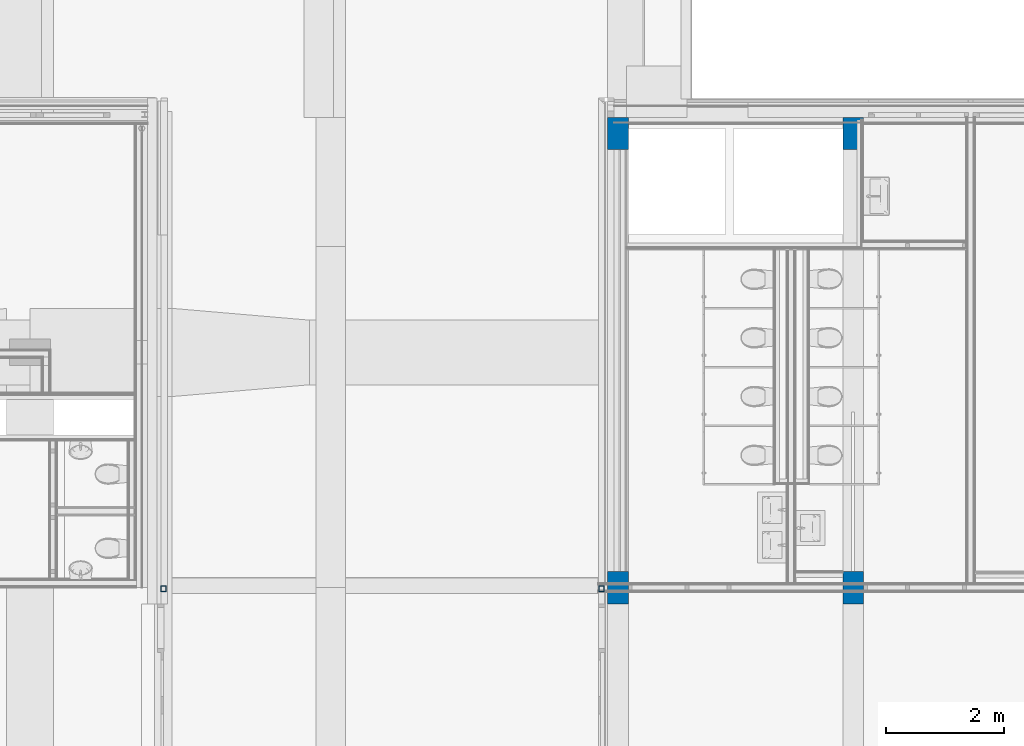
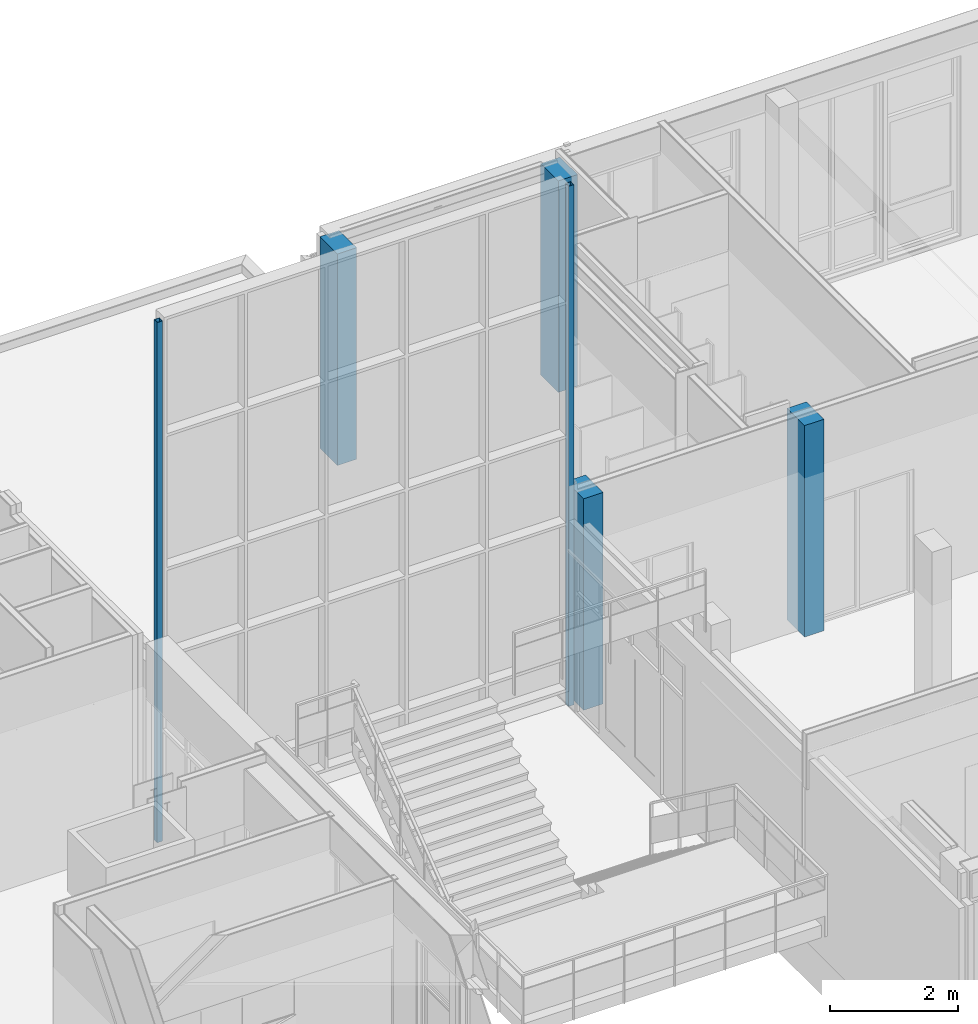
# One storey, part 10 of 94: 6 columns.
"""IFC2X3 building model written with IfcOpenShell, lengths in millimetres."""

import ifcopenshell
import ifcopenshell.guid

model = None  # the IFC model being written
_history = None  # IfcOwnerHistory: only IFC2X3 demands one
_inside = {}  # id of a spatial element -> (the spatial element, [elements in it])
_under = {}  # id of a project, library or spatial element -> (it, [spatial elements below it])
_declared = {}  # id of a project -> (the project, [libraries it declares])
_typed = {}  # id of a type object -> (the type object, [elements of that type])
_made_of = {}  # id of a material, layer set ... -> (it, [elements and type objects made of it])


def new_model(schema):
    """Start an empty IFC model of exactly this schema.

    Asked for "IFC4X3", IfcOpenShell would pick the latest addendum, in which some entities
    have other attributes; the version numbers below select the first issue.
    IFC2X3 requires an IfcOwnerHistory on every rooted entity: one is made here for all.
    """
    global model, _history
    if schema == "IFC4X3":
        model = ifcopenshell.file(schema_version=(4, 3, 0, 0))
    else:
        model = ifcopenshell.file(schema=schema)
    _inside.clear()
    _under.clear()
    _declared.clear()
    _typed.clear()
    _made_of.clear()
    _history = None
    if model.schema == "IFC2X3":
        org = make("IfcOrganization", Name="unknown")
        user = make(
            "IfcPersonAndOrganization",
            ThePerson=make("IfcPerson", FamilyName="unknown"),
            TheOrganization=org,
        )
        app = make(
            "IfcApplication",
            ApplicationDeveloper=org,
            Version="unknown",
            ApplicationFullName="unknown",
            ApplicationIdentifier="unknown",
        )
        _history = make(
            "IfcOwnerHistory",
            OwningUser=user,
            OwningApplication=app,
            ChangeAction="ADDED",
            CreationDate=0,
        )
    return model


def make(cls, **values):
    """One entity of the class cls with the attributes given. An attribute that is None is left unset."""
    return model.create_entity(
        cls, **{name: value for name, value in values.items() if value is not None}
    )


def entity(cls, *values):
    """Any entity or typed value of the class cls, its attributes in the order of the schema. None: left unset."""
    e = model.create_entity(cls)
    for i, value in enumerate(values):
        if value is not None:
            e[i] = value
    return e


def rooted(cls, **values):
    """An entity with a GlobalId (a new one), such as an element, a storey or a relation."""
    return make(cls, GlobalId=ifcopenshell.guid.new(), OwnerHistory=_history, **values)


def si_unit(unit_type, name, prefix=None):
    """IfcSIUnit, for example si_unit("LENGTHUNIT", "METRE", prefix="MILLI")."""
    return make("IfcSIUnit", UnitType=unit_type, Prefix=prefix, Name=name)


def converted_unit(unit_type, name, factor, base, dimensions=None, offset=None):
    """IfcConversionBasedUnit, such as the inch: factor (a typed value) times the base unit."""
    return make(
        "IfcConversionBasedUnit"
        if offset is None
        else "IfcConversionBasedUnitWithOffset",
        ConversionOffset=offset,
        Dimensions=None
        if dimensions is None
        else entity("IfcDimensionalExponents", *dimensions),
        UnitType=unit_type,
        Name=name,
        ConversionFactor=make(
            "IfcMeasureWithUnit", ValueComponent=factor, UnitComponent=base
        ),
    )


def derived_unit(unit_type, elements):
    """IfcDerivedUnit: a product of units, each with its exponent."""
    return make(
        "IfcDerivedUnit",
        Elements=[
            make("IfcDerivedUnitElement", Unit=unit, Exponent=power)
            for unit, power in elements
        ],
        UnitType=unit_type,
    )


def money_unit(currency):
    """IfcMonetaryUnit."""
    return make("IfcMonetaryUnit", Currency=currency)


def assignment(units):
    """IfcUnitAssignment: the units of a project."""
    return None if units is None else make("IfcUnitAssignment", Units=units)


def point(xyz):
    """IfcCartesianPoint."""
    return None if xyz is None else make("IfcCartesianPoint", Coordinates=xyz)


def direction(xyz):
    """IfcDirection."""
    return None if xyz is None else make("IfcDirection", DirectionRatios=xyz)


def frame(location, z_axis=None, x_axis=None):
    """IfcAxis2Placement3D, a coordinate frame: its origin and axes. An axis left out is left unset."""
    return make(
        "IfcAxis2Placement3D",
        Location=point(location),
        Axis=direction(z_axis),
        RefDirection=direction(x_axis),
    )


def origin_with_axes():
    """The frame at (0, 0, 0) with the z axis (0, 0, 1) and the x axis (1, 0, 0) written out."""
    return frame((0.0, 0.0, 0.0), z_axis=(0.0, 0.0, 1.0), x_axis=(1.0, 0.0, 0.0))


def place(relative_to, where):
    """IfcLocalPlacement: puts the frame where relative to a parent placement (None: the world)."""
    return make(
        "IfcLocalPlacement", PlacementRelTo=relative_to, RelativePlacement=where
    )


def context(
    kind, dimensions, precision=None, world=None, true_north=None, identifier=None
):
    """IfcGeometricRepresentationContext, for example the 3D "Model" context."""
    return make(
        "IfcGeometricRepresentationContext",
        ContextIdentifier=identifier,
        ContextType=kind,
        CoordinateSpaceDimension=dimensions,
        Precision=precision,
        WorldCoordinateSystem=world,
        TrueNorth=true_north,
    )


def subcontext(parent, identifier, kind, view, scale=None):
    """IfcGeometricRepresentationSubContext, for example "Body" below "Model"."""
    return make(
        "IfcGeometricRepresentationSubContext",
        ContextIdentifier=identifier,
        ContextType=kind,
        ParentContext=parent,
        TargetScale=scale,
        TargetView=view,
    )


def project(units=None, contexts=None):
    """IfcProject with its units and contexts."""
    return rooted(
        "IfcProject",
        Name="project",
        RepresentationContexts=contexts,
        UnitsInContext=assignment(units),
    )


def spatial(cls, under=None, at=None, **own):
    """A site, building, storey or space (cls), placed at a placement, below another one or the project."""
    s = rooted(cls, ObjectPlacement=at, **own)
    if under is not None:
        _under.setdefault(under.id(), (under, []))[1].append(s)
    return s


def faces_of(points, faces, orient=None, outer=None):
    """IfcFace entities. A face is a list of loops; a loop is a list of indices into points, from 0.

    orient and outer hold one flag for each loop. By default every Orientation is true, the
    first loop of a face is its IfcFaceOuterBound and the others are IfcFaceBound.
    """
    made = []
    for i, loops in enumerate(faces):
        bounds = []
        for j, loop in enumerate(loops):
            is_outer = j == 0 if outer is None else outer[i][j]
            bounds.append(
                make(
                    "IfcFaceOuterBound" if is_outer else "IfcFaceBound",
                    Bound=make("IfcPolyLoop", Polygon=[points[k] for k in loop]),
                    Orientation=True if orient is None else orient[i][j],
                )
            )
        made.append(make("IfcFace", Bounds=bounds))
    return made


def faceted_brep(points, faces, orient=None, outer=None, voids=None):
    """IfcFacetedBrep: a solid bounded by flat faces; with voids (closed shells), ...WithVoids."""
    shared = [point(p) for p in points]
    hull = make("IfcClosedShell", CfsFaces=faces_of(shared, faces, orient, outer))
    if voids is None:
        return make("IfcFacetedBrep", Outer=hull)
    return make(
        "IfcFacetedBrepWithVoids",
        Outer=hull,
        Voids=[
            make(cls, CfsFaces=faces_of(shared, fs, o, b)) for cls, fs, o, b in voids
        ],
    )


def shape(context_of_items, identifier, shape_type, items):
    """IfcShapeRepresentation: the items that make up one representation, for example the "Body"."""
    return make(
        "IfcShapeRepresentation",
        ContextOfItems=context_of_items,
        RepresentationIdentifier=identifier,
        RepresentationType=shape_type,
        Items=items,
    )


def material(Name=None, Category=None):
    """IfcMaterial."""
    return make("IfcMaterial", Name=Name, Category=Category)


def made_of(thing, what):
    """Note that an element or type object is made of a material, layer set ...; save() writes the relation."""
    if what is not None:
        _made_of.setdefault(what.id(), (what, []))[1].append(thing)
    return thing


def type_object(cls, material=None, **own):
    """A type object (cls), such as IfcWallType, which elements share."""
    return made_of(rooted(cls, **own), material)


def element(
    cls,
    number,
    at=None,
    inside=None,
    cuts=None,
    type_object=None,
    material=None,
    context=None,
    identifier="Body",
    shape_type=None,
    held_by="IfcProductDefinitionShape",
    body=None,
    shapes=None,
    **own,
):
    """One element of the class cls, such as IfcWall. Its Tag is "e" and its number.

    at: its placement. inside: the storey or other place that contains it. cuts: it is an
    opening in that element (IfcRelVoidsElement). A single representation is given by context,
    identifier, shape_type and body (its items); several are given by shapes. held_by: the class
    of the entity that holds the representations. save() writes the other relations.
    """
    e = rooted(cls, Tag="e%d" % number, ObjectPlacement=at, **own)
    if body is not None:
        shapes = [shape(context, identifier, shape_type, body)]
    if shapes is not None:
        e.Representation = make(held_by, Representations=shapes)
    if inside is not None:
        _inside.setdefault(inside.id(), (inside, []))[1].append(e)
    if cuts is not None:
        rooted(
            "IfcRelVoidsElement", RelatingBuildingElement=cuts, RelatedOpeningElement=e
        )
    if type_object is not None:
        _typed.setdefault(type_object.id(), (type_object, []))[1].append(e)
    return made_of(e, material)


def aggregate(whole, parts):
    """IfcRelAggregates: a whole, such as a stair, and the parts it consists of."""
    return rooted("IfcRelAggregates", RelatingObject=whole, RelatedObjects=parts)


def save(model, path):
    """Write the relations noted so far, then the file.

    IfcRelAggregates (storeys below a building ...), IfcRelContainedInSpatialStructure (elements
    in a storey), IfcRelDefinesByType, IfcRelAssociatesMaterial and IfcRelDeclares: one each for
    every whole, place, type object, material and project.
    """
    for whole, parts in _under.values():
        aggregate(whole, parts)
    for where, things in _inside.values():
        rooted(
            "IfcRelContainedInSpatialStructure",
            RelatedElements=things,
            RelatingStructure=where,
        )
    for kind, things in _typed.values():
        rooted("IfcRelDefinesByType", RelatedObjects=things, RelatingType=kind)
    for what, things in _made_of.values():
        rooted("IfcRelAssociatesMaterial", RelatedObjects=things, RelatingMaterial=what)
    for by, libraries in _declared.values():
        rooted("IfcRelDeclares", RelatingContext=by, RelatedDefinitions=libraries)
    model.write(path)


model = new_model("IFC2X3")

# Units and contexts
model_context = context("Model", 3, precision=0.01, world=origin_with_axes(), true_north=direction((0.0, 1.0)))
body_context = subcontext(model_context, "Body", "Model", "MODEL_VIEW")
ifc_project = project(units=[si_unit("LENGTHUNIT", "METRE", prefix="MILLI"), si_unit("AREAUNIT", "SQUARE_METRE"), si_unit("VOLUMEUNIT", "CUBIC_METRE"), converted_unit("PLANEANGLEUNIT", "DEGREE", entity("IfcPlaneAngleMeasure", 0.0174532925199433), si_unit("PLANEANGLEUNIT", "RADIAN"), dimensions=[0, 0, 0, 0, 0, 0, 0]), money_unit("EUR"), converted_unit("TIMEUNIT", "Year", entity("IfcTimeMeasure", 31557600.0), si_unit("TIMEUNIT", "SECOND"), dimensions=[0, 0, 1, 0, 0, 0, 0]), si_unit("MASSUNIT", "GRAM", prefix="KILO"), si_unit("THERMODYNAMICTEMPERATUREUNIT", "DEGREE_CELSIUS"), si_unit("LUMINOUSINTENSITYUNIT", "LUMEN"), si_unit("ENERGYUNIT", "JOULE", prefix="MEGA"), derived_unit("THERMALCONDUCTANCEUNIT", [(si_unit("POWERUNIT", "WATT"), 1), (si_unit("LENGTHUNIT", "METRE"), -1), (si_unit("THERMODYNAMICTEMPERATUREUNIT", "KELVIN"), -1)]), derived_unit("SPECIFICHEATCAPACITYUNIT", [(si_unit("ENERGYUNIT", "JOULE"), 1), (si_unit("MASSUNIT", "GRAM", prefix="KILO"), -1), (si_unit("THERMODYNAMICTEMPERATUREUNIT", "KELVIN"), -1)]), derived_unit("MASSDENSITYUNIT", [(si_unit("MASSUNIT", "GRAM", prefix="KILO"), 1), (si_unit("VOLUMEUNIT", "CUBIC_METRE"), -1)])], contexts=[model_context])

# Site, building, storey
site_placement = place(None, origin_with_axes())
site = spatial("IfcSite", under=ifc_project, at=site_placement, Name="<site naam>", CompositionType="ELEMENT")
building_placement = place(site_placement, origin_with_axes())
building = spatial("IfcBuilding", under=site, at=building_placement, Name="<Naam gebouw>", CompositionType="ELEMENT")
storey_placement = place(building_placement, frame((0.0, 0.0, 4250.0), z_axis=(0.0, 0.0, 1.0), x_axis=(1.0, 0.0, 0.0)))
storey = spatial("IfcBuildingStorey", under=building, at=storey_placement, Name="01 1e verdieping", CompositionType="ELEMENT", Elevation=4250.0)

# Columns
ifc_material_1 = material(Name="staal C")
column_type_1 = type_object("IfcColumnType", Name="Profiel vierkant 100 x 100", PredefinedType="COLUMN")
column_1_placement = place(storey_placement, frame((4270.000156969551, 11980.98047379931, 0.0), z_axis=(0.0, 0.0, 1.0), x_axis=(1.0, 0.0, 0.0)))
element("IfcColumn", 1, at=column_1_placement, inside=storey, type_object=column_type_1, material=ifc_material_1, Name="28_Kolom_Profiel", ObjectType="COLUMN", context=body_context, shape_type="Brep", body=[
    faceted_brep([(-50.00000001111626, -50.00172146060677, 9960.0), (-50.00000001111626, -50.00172146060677, 0.0), (50.00000001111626, -50.00172146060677, 0.0), (50.00000001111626, -50.00172146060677, 9960.0), (-50.00000001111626, 50.00172146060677, 9960.0), (-50.00000001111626, 50.00172146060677, 0.0), (50.00000001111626, 50.00172146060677, 0.0), (-41.99999993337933, 42.00172138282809, 0.0), (-41.99999993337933, -42.00172138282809, 0.0), (41.99999993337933, -42.00172138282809, 0.0), (41.99999993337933, 42.00172138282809, 0.0), (50.00000001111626, 50.00172146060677, 9960.0), (41.99999993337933, -42.00172138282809, 9960.0), (-41.99999993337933, -42.00172138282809, 9960.0), (-41.99999993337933, 42.00172138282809, 9960.0), (41.99999993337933, 42.00172138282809, 9960.0)], [[[0, 1, 2, 3]], [[4, 5, 1, 0]], [[2, 1, 5, 6], [7, 8, 9, 10]], [[3, 2, 6, 11]], [[4, 0, 3, 11], [12, 13, 14, 15]], [[11, 6, 5, 4]], [[13, 8, 7, 14]], [[12, 9, 8, 13]], [[15, 10, 9, 12]], [[14, 7, 10, 15]]]),
])
column_2_placement = place(storey_placement, frame((11719.99999998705, 11981.00130178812, 0.0), z_axis=(0.0, 0.0, 1.0), x_axis=(1.0, 0.0, 0.0)))
element("IfcColumn", 2, at=column_2_placement, inside=storey, type_object=column_type_1, material=ifc_material_1, Name="28_Kolom_Profiel", ObjectType="COLUMN", context=body_context, shape_type="Brep", body=[
    faceted_brep([(-50.00000001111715, -50.00172146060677, 9960.0), (-50.00000001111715, -50.00172146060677, 0.0), (50.00000001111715, -50.00172146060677, 0.0), (50.00000001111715, -50.00172146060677, 9960.0), (-50.00000001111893, 50.00172146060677, 9960.0), (-50.00000001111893, 50.00172146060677, 0.0), (50.00000001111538, 50.00172146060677, 0.0), (-41.9999999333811, 42.00172138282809, 0.0), (-41.99999993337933, -42.00172138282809, 0.0), (41.99999993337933, -42.00172138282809, 0.0), (41.99999993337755, 42.00172138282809, 0.0), (50.00000001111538, 50.00172146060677, 9960.0), (41.99999993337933, -42.00172138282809, 9960.0), (-41.99999993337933, -42.00172138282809, 9960.0), (-41.9999999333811, 42.00172138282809, 9960.0), (41.99999993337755, 42.00172138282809, 9960.0)], [[[0, 1, 2, 3]], [[4, 5, 1, 0]], [[2, 1, 5, 6], [7, 8, 9, 10]], [[3, 2, 6, 11]], [[4, 0, 3, 11], [12, 13, 14, 15]], [[11, 6, 5, 4]], [[13, 8, 7, 14]], [[12, 9, 8, 13]], [[15, 10, 9, 12]], [[14, 7, 10, 15]]]),
])
ifc_material_2 = material(Name="beton_gewapend C")
column_type_2 = type_object("IfcColumnType", Name="beton_gewapend C 350 x 550", PredefinedType="COLUMN")
column_3_placement = place(storey_placement, frame((16000.00000000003, 19724.99999999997, 0.0), z_axis=(0.0, 0.0, 1.0), x_axis=(1.0, 0.0, 0.0)))
element("IfcColumn", 3, at=column_3_placement, inside=storey, type_object=column_type_2, material=ifc_material_2, Name="28_Kolom_beton_gewapend", ObjectType="COLUMN", context=body_context, shape_type="Brep", body=[
    faceted_brep([(-175.0000000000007, -274.9999999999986, 4050.000000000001), (-175.0000000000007, -274.9999999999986, 0.0), (175.0000000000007, -274.9999999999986, 0.0), (175.0000000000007, -274.9999999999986, 4050.000000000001), (-175.0000000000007, 274.9999999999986, 4050.000000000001), (-175.0000000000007, 274.9999999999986, 0.0), (175.0000000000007, 274.9999999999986, 0.0), (175.0000000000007, 274.9999999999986, 4050.000000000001)], [[[0, 1, 2, 3]], [[4, 5, 1, 0]], [[2, 1, 5, 6]], [[3, 2, 6, 7]], [[4, 0, 3, 7]], [[7, 6, 5, 4]]]),
])
column_4_placement = place(storey_placement, frame((16000.00000000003, 12000.00000000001, 0.0), z_axis=(0.0, 0.0, 1.0), x_axis=(1.0, 0.0, 0.0)))
element("IfcColumn", 4, at=column_4_placement, inside=storey, type_object=column_type_2, material=ifc_material_2, Name="28_Kolom_beton_gewapend", ObjectType="COLUMN", context=body_context, shape_type="Brep", body=[
    faceted_brep([(-174.9999999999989, -275.0000000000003, 4050.000000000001), (-174.9999999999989, -275.0000000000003, 0.0), (175.0000000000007, -275.0000000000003, 0.0), (175.0000000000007, -275.0000000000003, 4050.000000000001), (-175.0000000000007, 275.0000000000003, 4050.000000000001), (-175.0000000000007, 275.0000000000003, 0.0), (175.0000000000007, 275.0000000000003, 0.0), (175.0000000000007, 275.0000000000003, 4050.000000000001)], [[[0, 1, 2, 3]], [[4, 5, 1, 0]], [[2, 1, 5, 6]], [[3, 2, 6, 7]], [[4, 0, 3, 7]], [[7, 6, 5, 4]]]),
])
column_5_placement = place(storey_placement, frame((11999.99995202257, 19724.99999999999, 0.0), z_axis=(0.0, 0.0, 1.0), x_axis=(1.0, 0.0, 0.0)))
element("IfcColumn", 5, at=column_5_placement, inside=storey, type_object=column_type_2, material=ifc_material_2, Name="28_Kolom_beton_gewapend", ObjectType="COLUMN", context=body_context, shape_type="Brep", body=[
    faceted_brep([(175.0000000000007, -274.9999999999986, 0.0), (175.0000000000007, -274.9999999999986, 4050.000000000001), (-175.0000000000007, -274.9999999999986, 4050.000000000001), (-175.0000000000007, -274.9999999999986, 0.0), (175.0000000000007, 274.9999999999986, 0.0), (175.0000000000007, 274.9999999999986, 4050.000000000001), (-175.0000000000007, 274.9999999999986, 4050.000000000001), (-175.0000000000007, 274.9999999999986, 0.0)], [[[0, 1, 2, 3]], [[4, 5, 1, 0]], [[1, 5, 6, 2]], [[3, 2, 6, 7]], [[7, 4, 0, 3]], [[7, 6, 5, 4]]]),
])
column_6_placement = place(storey_placement, frame((11999.99995202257, 11999.9999539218, 0.0), z_axis=(0.0, 0.0, 1.0), x_axis=(1.0, 0.0, 0.0)))
element("IfcColumn", 6, at=column_6_placement, inside=storey, type_object=column_type_2, material=ifc_material_2, Name="28_Kolom_beton_gewapend", ObjectType="COLUMN", context=body_context, shape_type="Brep", body=[
    faceted_brep([(175.0000000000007, -274.9999999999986, 0.0), (175.0000000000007, -274.9999999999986, 4050.000000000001), (-175.0000000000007, -275.0000000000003, 4050.000000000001), (-175.0000000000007, -275.0000000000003, 0.0), (174.9999999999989, 275.0000000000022, 0.0), (174.9999999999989, 275.0000000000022, 4050.000000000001), (-175.0000000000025, 275.0000000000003, 4050.000000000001), (-175.0000000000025, 275.0000000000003, 0.0)], [[[0, 1, 2, 3]], [[4, 5, 1, 0]], [[1, 5, 6, 2]], [[3, 2, 6, 7]], [[7, 4, 0, 3]], [[7, 6, 5, 4]]]),
])

save(model, "model.ifc")
